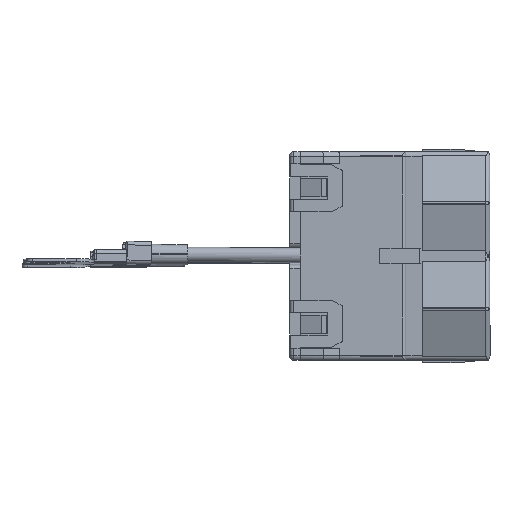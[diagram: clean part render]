
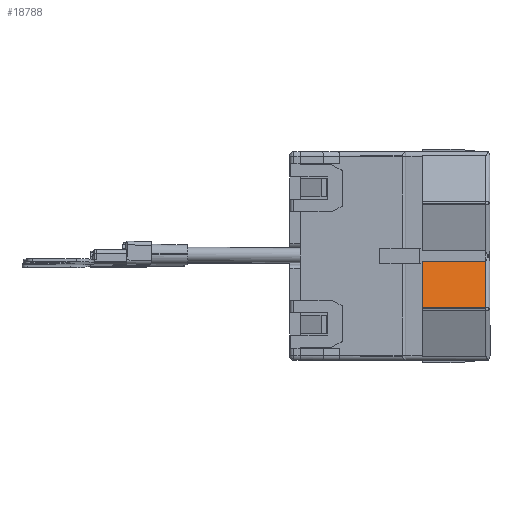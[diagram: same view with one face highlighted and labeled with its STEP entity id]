
A CAD part, left-side view. The second image highlights one B-rep face of the part: STEP entity #18788.
In plain terms, the highlighted planar face has unit normal (-0.972, 0, 0.233) as drawn and (-0.972, -0.233, 0) by its records, which use the part's own axes.
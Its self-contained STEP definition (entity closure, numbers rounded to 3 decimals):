
#2311 = PLANE ( 'NONE',  #20622 ) ;
#2363 = VECTOR ( 'NONE', #22657, 1000. ) ;
#2818 = LINE ( 'NONE', #12491, #2363 ) ;
#3885 = LINE ( 'NONE', #7408, #37424 ) ;
#4334 = CARTESIAN_POINT ( 'NONE',  ( -11., 0.683, -8.75 ) ) ;
#4709 = ORIENTED_EDGE ( 'NONE', *, *, #8181, .T. ) ;
#5576 = EDGE_CURVE ( 'NONE', #28203, #16655, #41841, .T. ) ;
#7408 = CARTESIAN_POINT ( 'NONE',  ( -11., 0.683, -8.75 ) ) ;
#8181 = EDGE_CURVE ( 'NONE', #33989, #41033, #3885, .T. ) ;
#8263 = DIRECTION ( 'NONE',  ( -0.233, 0.972, 0. ) ) ;
#11375 = LINE ( 'NONE', #41194, #36587 ) ;
#11589 = DIRECTION ( 'NONE',  ( 0., 0., 1. ) ) ;
#12183 = EDGE_LOOP ( 'NONE', ( #14030, #4709, #40557, #40931 ) ) ;
#12491 = CARTESIAN_POINT ( 'NONE',  ( -11., 0.683, -8.75 ) ) ;
#13246 = VECTOR ( 'NONE', #11589, 1000. ) ;
#14030 = ORIENTED_EDGE ( 'NONE', *, *, #16723, .F. ) ;
#15518 = CARTESIAN_POINT ( 'NONE',  ( -12.529, 7.06, -0.35 ) ) ;
#15738 = DIRECTION ( 'NONE',  ( -0.972, -0.233, 0. ) ) ;
#16655 = VERTEX_POINT ( 'NONE', #38128 ) ;
#16723 = EDGE_CURVE ( 'NONE', #33989, #28203, #2818, .T. ) ;
#18788 = ADVANCED_FACE ( 'NONE', ( #38919 ), #2311, .T. ) ;
#18856 = CARTESIAN_POINT ( 'NONE',  ( -12.485, 6.875, -8.75 ) ) ;
#19983 = DIRECTION ( 'NONE',  ( 0., 0., 1. ) ) ;
#20622 = AXIS2_PLACEMENT_3D ( 'NONE', #15518, #15738, #8263 ) ;
#22519 = CARTESIAN_POINT ( 'NONE',  ( -11., 0.683, -0.35 ) ) ;
#22657 = DIRECTION ( 'NONE',  ( -0.233, 0.972, 0. ) ) ;
#25277 = CARTESIAN_POINT ( 'NONE',  ( -12.485, 6.875, -8.75 ) ) ;
#25968 = EDGE_CURVE ( 'NONE', #16655, #41033, #11375, .T. ) ;
#28203 = VERTEX_POINT ( 'NONE', #18856 ) ;
#28375 = DIRECTION ( 'NONE',  ( 0.233, -0.972, 0. ) ) ;
#33989 = VERTEX_POINT ( 'NONE', #4334 ) ;
#36587 = VECTOR ( 'NONE', #28375, 1000. ) ;
#37424 = VECTOR ( 'NONE', #19983, 1000. ) ;
#38128 = CARTESIAN_POINT ( 'NONE',  ( -12.485, 6.875, -0.35 ) ) ;
#38919 = FACE_OUTER_BOUND ( 'NONE', #12183, .T. ) ;
#40557 = ORIENTED_EDGE ( 'NONE', *, *, #25968, .F. ) ;
#40931 = ORIENTED_EDGE ( 'NONE', *, *, #5576, .F. ) ;
#41033 = VERTEX_POINT ( 'NONE', #22519 ) ;
#41194 = CARTESIAN_POINT ( 'NONE',  ( -12.485, 6.875, -0.35 ) ) ;
#41841 = LINE ( 'NONE', #25277, #13246 ) ;
